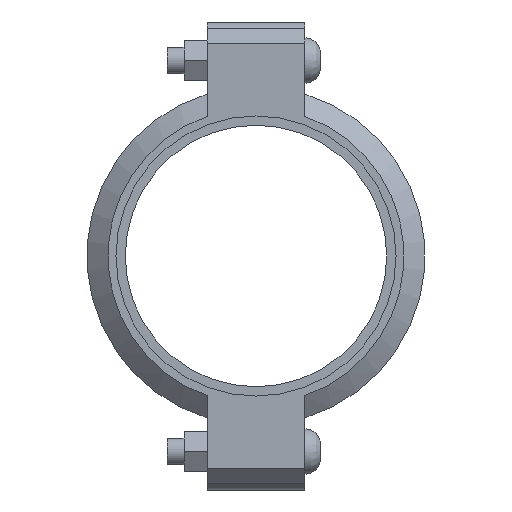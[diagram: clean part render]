
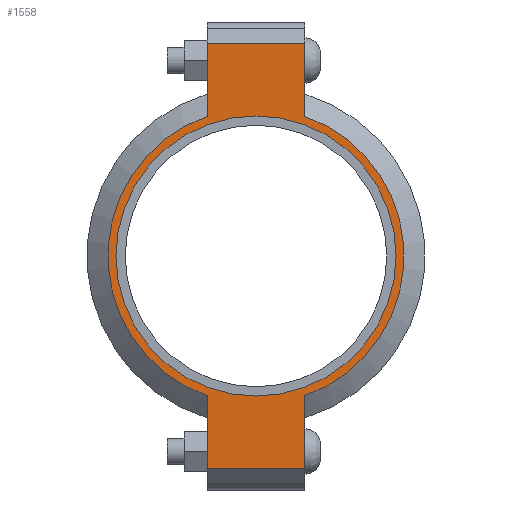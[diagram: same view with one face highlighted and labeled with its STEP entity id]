
A CAD part, left-side view. The second image highlights one B-rep face of the part: STEP entity #1558.
In plain terms, the highlighted planar face has unit normal (-1, 0, 0) as drawn and (0, 0, 1) by its records, which use the part's own axes.
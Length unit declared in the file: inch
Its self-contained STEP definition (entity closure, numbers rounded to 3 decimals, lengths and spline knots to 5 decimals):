
#182=LINE('',#2728,#275);
#190=LINE('',#2764,#283);
#197=LINE('',#2785,#290);
#206=LINE('',#2817,#299);
#207=LINE('',#2821,#300);
#208=LINE('',#2823,#301);
#275=VECTOR('',#2224,0.3937);
#283=VECTOR('',#2240,0.3937);
#290=VECTOR('',#2259,0.3937);
#299=VECTOR('',#2284,0.3937);
#300=VECTOR('',#2289,0.3937);
#301=VECTOR('',#2290,0.3937);
#357=FACE_BOUND('',#535,.T.);
#429=FACE_OUTER_BOUND('',#534,.T.);
#534=EDGE_LOOP('',(#1299,#1300,#1301,#1302,#1303,#1304,#1305,#1306));
#535=EDGE_LOOP('',(#1307));
#607=CIRCLE('',#1786,3.3125);
#633=CIRCLE('',#1845,3.5);
#634=CIRCLE('',#1846,3.5);
#699=VERTEX_POINT('',#2544);
#742=VERTEX_POINT('',#2725);
#743=VERTEX_POINT('',#2727);
#754=VERTEX_POINT('',#2759);
#755=VERTEX_POINT('',#2763);
#762=VERTEX_POINT('',#2782);
#763=VERTEX_POINT('',#2784);
#773=VERTEX_POINT('',#2820);
#774=VERTEX_POINT('',#2822);
#855=EDGE_CURVE('',#699,#699,#607,.T.);
#916=EDGE_CURVE('',#743,#742,#182,.T.);
#930=EDGE_CURVE('',#755,#754,#190,.T.);
#940=EDGE_CURVE('',#763,#762,#197,.T.);
#955=EDGE_CURVE('',#755,#742,#206,.T.);
#956=EDGE_CURVE('',#754,#763,#633,.T.);
#957=EDGE_CURVE('',#773,#762,#207,.T.);
#958=EDGE_CURVE('',#773,#774,#208,.T.);
#959=EDGE_CURVE('',#774,#743,#634,.T.);
#1299=ORIENTED_EDGE('',*,*,#955,.F.);
#1300=ORIENTED_EDGE('',*,*,#930,.T.);
#1301=ORIENTED_EDGE('',*,*,#956,.T.);
#1302=ORIENTED_EDGE('',*,*,#940,.T.);
#1303=ORIENTED_EDGE('',*,*,#957,.F.);
#1304=ORIENTED_EDGE('',*,*,#958,.T.);
#1305=ORIENTED_EDGE('',*,*,#959,.T.);
#1306=ORIENTED_EDGE('',*,*,#916,.T.);
#1307=ORIENTED_EDGE('',*,*,#855,.T.);
#1400=PLANE('',#1844);
#1558=ADVANCED_FACE('',(#429,#357),#1400,.T.);
#1786=AXIS2_PLACEMENT_3D('',#2546,#2100,#2101);
#1844=AXIS2_PLACEMENT_3D('',#2818,#2285,#2286);
#1845=AXIS2_PLACEMENT_3D('',#2819,#2287,#2288);
#1846=AXIS2_PLACEMENT_3D('',#2824,#2291,#2292);
#2100=DIRECTION('center_axis',(0.,0.,-1.));
#2101=DIRECTION('ref_axis',(1.,0.,0.));
#2224=DIRECTION('',(1.,0.,0.));
#2240=DIRECTION('',(-1.,0.,0.));
#2259=DIRECTION('',(-1.,0.,0.));
#2284=DIRECTION('',(0.,-1.,0.));
#2285=DIRECTION('center_axis',(0.,0.,1.));
#2286=DIRECTION('ref_axis',(-1.,0.,0.));
#2287=DIRECTION('center_axis',(0.,0.,1.));
#2288=DIRECTION('ref_axis',(1.,0.,0.));
#2289=DIRECTION('',(0.,1.,0.));
#2290=DIRECTION('',(1.,0.,0.));
#2291=DIRECTION('center_axis',(0.,0.,1.));
#2292=DIRECTION('ref_axis',(1.,0.,0.));
#2544=CARTESIAN_POINT('',(-3.3125,0.,1.065));
#2546=CARTESIAN_POINT('Origin',(0.,0.,1.065));
#2725=CARTESIAN_POINT('',(5.035,-1.156,1.065));
#2727=CARTESIAN_POINT('',(3.30358,-1.156,1.065));
#2728=CARTESIAN_POINT('',(5.535,-1.156,1.065));
#2759=CARTESIAN_POINT('',(3.30358,1.156,1.065));
#2763=CARTESIAN_POINT('',(5.035,1.156,1.065));
#2764=CARTESIAN_POINT('',(-5.535,1.156,1.065));
#2782=CARTESIAN_POINT('',(-5.035,1.156,1.065));
#2784=CARTESIAN_POINT('',(-3.30358,1.156,1.065));
#2785=CARTESIAN_POINT('',(-5.535,1.156,1.065));
#2817=CARTESIAN_POINT('',(5.035,-0.578,1.065));
#2818=CARTESIAN_POINT('Origin',(0.,0.,
1.065));
#2819=CARTESIAN_POINT('Origin',(0.,0.,1.065));
#2820=CARTESIAN_POINT('',(-5.035,-1.156,1.065));
#2821=CARTESIAN_POINT('',(-5.035,0.578,1.065));
#2822=CARTESIAN_POINT('',(-3.30358,-1.156,1.065));
#2823=CARTESIAN_POINT('',(5.535,-1.156,1.065));
#2824=CARTESIAN_POINT('Origin',(0.,0.,1.065));
